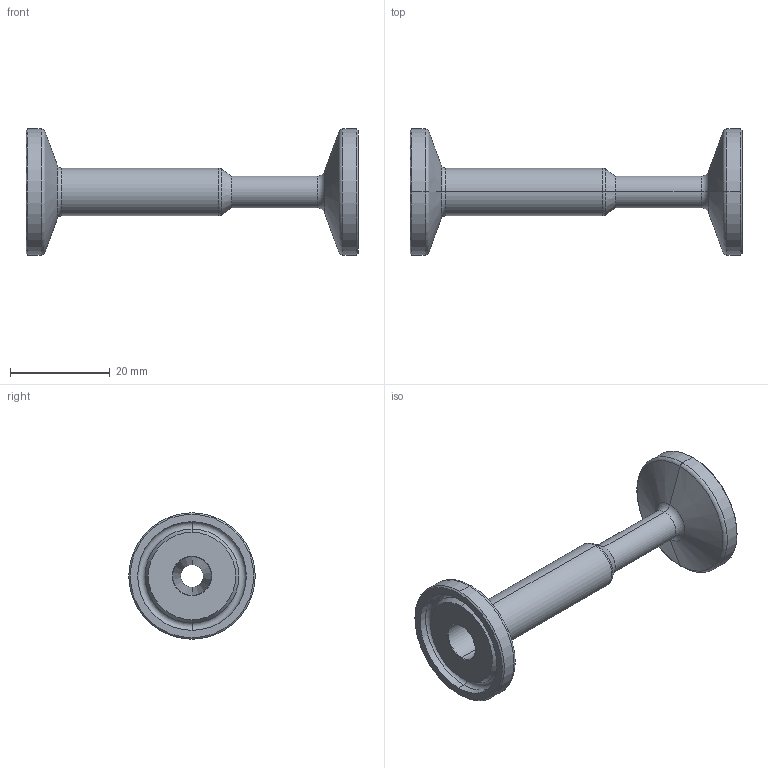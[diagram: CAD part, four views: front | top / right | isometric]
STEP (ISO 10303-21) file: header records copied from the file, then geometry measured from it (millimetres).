
FILE_DESCRIPTION (( 'STEP AP214' ), '1' );
FILE_NAME ('TEG31SCC6I.375x.25.STEP', '2016-05-29T14:39:31', ( 'eran' ), ( '' ), 'SwSTEP 2.0', 'SolidWorks 2016', '' );
FILE_SCHEMA (( 'AUTOMOTIVE_DESIGN' ));
Length unit declared in the file: millimetre
Products named in the file (1): TEG31SCC6I.375x.25
Bounding box: 66.67 x 25.4 x 25.4 mm (x, y, z)
Volume: 5672.3 mm3; surface area: 5308.8 mm2
Topology: 1 solids, 1 shells, 54 faces, 108 edges, 58 vertices
Faces by surface type: cone 18, torus 16, cylinder 16, plane 4
Entity records: 1428 total; most frequent: DIRECTION 292, CARTESIAN_POINT 221, ORIENTED_EDGE 216, AXIS2_PLACEMENT_3D 129, EDGE_CURVE 108, CIRCLE 74, VERTEX_POINT 58, EDGE_LOOP 58
